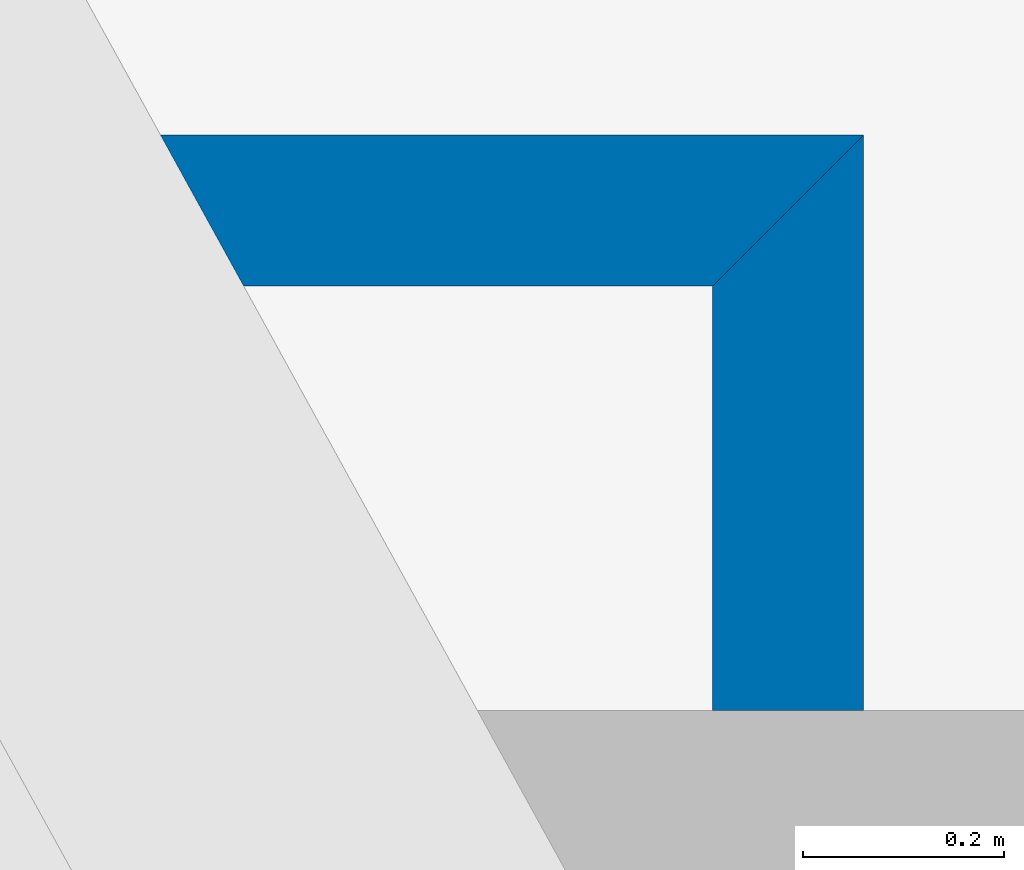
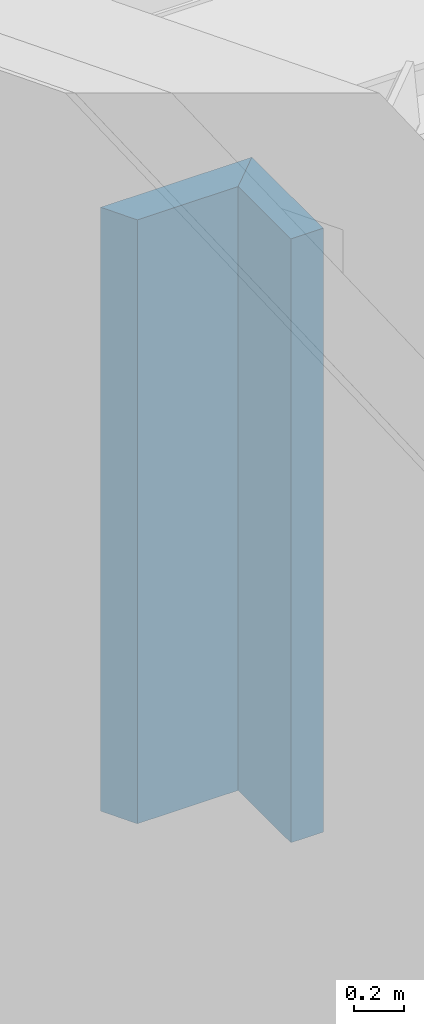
# One storey, part 27 of 194: 2 walls.
"""IFC2X3 building model written with IfcOpenShell, lengths in millimetres."""

from ifc_helpers import new_model, entity, si_unit, converted_unit, derived_unit, money_unit, direction, frame, origin_with_axes, place, context, subcontext, project, spatial, polyline, outline, extrude, material, layer, layer_set, layer_usage, type_object, element, save


model = new_model("IFC2X3")

# Units and contexts
model_context = context("Model", 3, precision=1e-05, world=origin_with_axes(), true_north=direction((0.0, 1.0)))
body_context = subcontext(model_context, "Body", "Model", "MODEL_VIEW")
ifc_project = project(units=[si_unit("LENGTHUNIT", "METRE", prefix="MILLI"), si_unit("AREAUNIT", "SQUARE_METRE"), si_unit("VOLUMEUNIT", "CUBIC_METRE"), converted_unit("PLANEANGLEUNIT", "DEGREE", entity("IfcPlaneAngleMeasure", 0.0174532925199), si_unit("PLANEANGLEUNIT", "RADIAN"), dimensions=[0, 0, 0, 0, 0, 0, 0]), si_unit("SOLIDANGLEUNIT", "STERADIAN"), money_unit("EUR"), converted_unit("TIMEUNIT", "Year", entity("IfcTimeMeasure", 31556926.0), si_unit("TIMEUNIT", "SECOND"), dimensions=[0, 0, 1, 0, 0, 0, 0]), si_unit("MASSUNIT", "GRAM", prefix="KILO"), si_unit("THERMODYNAMICTEMPERATUREUNIT", "DEGREE_CELSIUS"), si_unit("LUMINOUSINTENSITYUNIT", "LUMEN"), si_unit("ENERGYUNIT", "JOULE", prefix="MEGA"), derived_unit("THERMALCONDUCTANCEUNIT", [(si_unit("POWERUNIT", "WATT"), 1), (si_unit("LENGTHUNIT", "METRE"), -1), (si_unit("THERMODYNAMICTEMPERATUREUNIT", "KELVIN"), -1)]), derived_unit("SPECIFICHEATCAPACITYUNIT", [(si_unit("ENERGYUNIT", "JOULE"), 1), (si_unit("MASSUNIT", "GRAM", prefix="KILO"), -1), (si_unit("THERMODYNAMICTEMPERATUREUNIT", "KELVIN"), -1)]), derived_unit("MASSDENSITYUNIT", [(si_unit("MASSUNIT", "GRAM", prefix="KILO"), 1), (si_unit("VOLUMEUNIT", "CUBIC_METRE"), -1)])], contexts=[model_context])

# Site, building, storey
site_placement = place(None, origin_with_axes())
site = spatial("IfcSite", under=ifc_project, at=site_placement, Name="Site", CompositionType="ELEMENT")
building_placement = place(site_placement, origin_with_axes())
building = spatial("IfcBuilding", under=site, at=building_placement, Name="Building", CompositionType="ELEMENT")
storey_placement = place(building_placement, frame((0.0, 0.0, 3000.0), z_axis=(0.0, 0.0, 1.0), x_axis=(1.0, 0.0, 0.0)))
storey = spatial("IfcBuildingStorey", under=building, at=storey_placement, Name="2 KORRUS", CompositionType="ELEMENT", Elevation=3000.0)

# Walls
ifc_material = material(Name="Kivi -  Uus Konstruktsioon")
ifc_layer = layer(ifc_material, 150.0, ventilated="UNKNOWN")
ifc_layer_set = layer_set([ifc_layer], Name="uus ss 150")
ifc_layer_usage_1 = layer_usage(ifc_layer_set, "AXIS2", "NEGATIVE", 0.0)
wall_type = type_object("IfcWallType", Name="SS-1*", PredefinedType="NOTDEFINED")
wall_1_placement = place(storey_placement, frame((244.137916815, 68297.3588074, 0.0), z_axis=(0.0, 0.0, 1.0), x_axis=(0.0, -1.0, 0.0)))
element("IfcWallStandardCase", 1, at=wall_1_placement, inside=storey, type_object=wall_type, material=ifc_layer_usage_1, Name="sahti sein", context=body_context, shape_type="SweptSolid", body=[
    extrude(outline(polyline([(150.0, -150.0), (571.965949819, -150.0), (571.965949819, 0.0), (0.0, 0.0), (150.0, -150.0)])), origin_with_axes(), (0.0, 0.0, 1.0), 2950.0),
])
ifc_layer_usage_2 = layer_usage(ifc_layer_set, "AXIS2", "NEGATIVE", 0.0)
wall_2_placement = place(storey_placement, frame((-945.428530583, 68297.3588074, 0.0), z_axis=(0.0, 0.0, 1.0), x_axis=(1.0, 0.0, 0.0)))
element("IfcWallStandardCase", 2, at=wall_2_placement, inside=storey, type_object=wall_type, material=ifc_layer_usage_2, Name="sahti sein", context=body_context, shape_type="SweptSolid", body=[
    extrude(outline(polyline([(573.461162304, -150.0), (1039.5664474, -150.0), (1189.5664474, 0.0), (490.871099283, 0.0), (573.461162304, -150.0)])), origin_with_axes(), (0.0, 0.0, 1.0), 2950.0),
])

save(model, "model.ifc")
